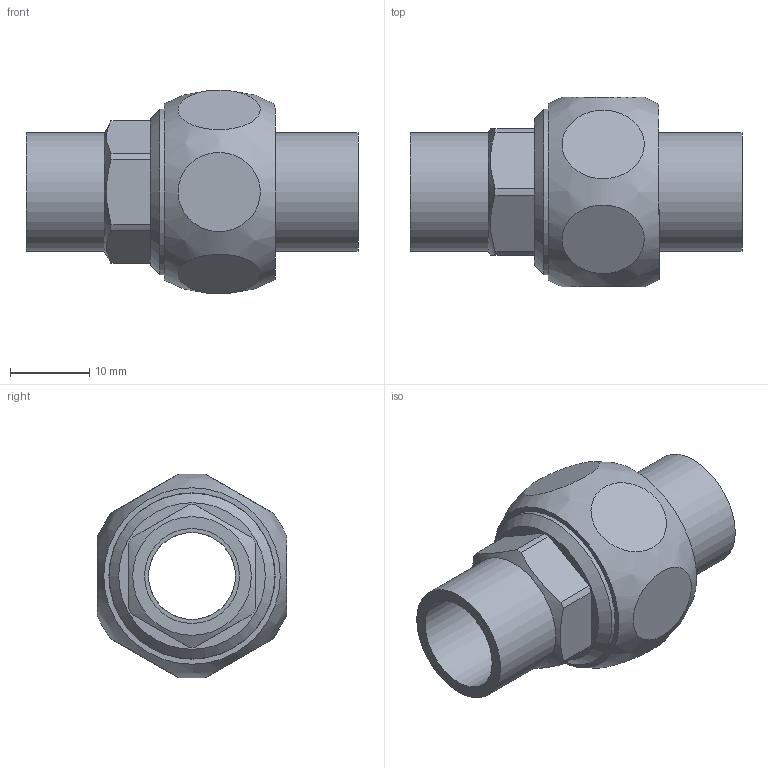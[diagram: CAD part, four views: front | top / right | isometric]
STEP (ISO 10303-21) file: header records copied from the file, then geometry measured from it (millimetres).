
FILE_DESCRIPTION(/* description */ (''),/* implementation_level */ '2;1');
FILE_NAME(/* name */ '\\LG50011\SANHA_Legnica\Engineering\Public\RYSUNKI\SANHA POLSKA\4330\inventor\14330_12(3).stp',/* time_stamp */ '2018-05-15T08:59:53+02:00',/* author */ ('gomulka'),/* organization */ (''),/* preprocessor_version */ 'ST-DEVELOPER v16.13',/* originating_system */ 'Autodesk Inventor 2018',/* authorisation */ '');
FILE_SCHEMA (('AUTOMOTIVE_DESIGN { 1 0 10303 214 3 1 1 }'));
Length unit declared in the file: millimetre
Products named in the file (5): 14330_12(3); 14372_12-12(1); 14374B_12(0); 1DCU12; 14370_12-12-A(1)
Assembly tree (4 placements, depth 2):
  14330_12(3)
    14372_12-12(1)
    14374B_12(0)
    1DCU12
    14370_12-12-A(1)
Bounding box: 42 x 24 x 25.78 mm (x, y, z)
Volume: 7865.5 mm3; surface area: 7031 mm2
Topology: 4 solids, 4 shells, 48 faces, 93 edges, 63 vertices
Faces by surface type: plane 25, cylinder 18, cone 4, bspline 1
Full cylindrical faces by diameter (mm): 11 x3, 12 x2, 15 x2, 16.1 x1, 18 x1, 18.3 x1, 18.63 x1, 20.96 x1
Entity records: 1659 total; most frequent: CARTESIAN_POINT 532, DIRECTION 216, ORIENTED_EDGE 152, AXIS2_PLACEMENT_3D 99, EDGE_LOOP 82, EDGE_CURVE 76, VERTEX_POINT 62, FACE_OUTER_BOUND 48
